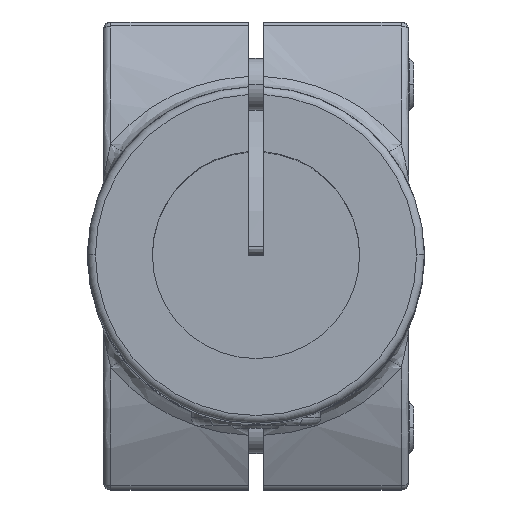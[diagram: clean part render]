
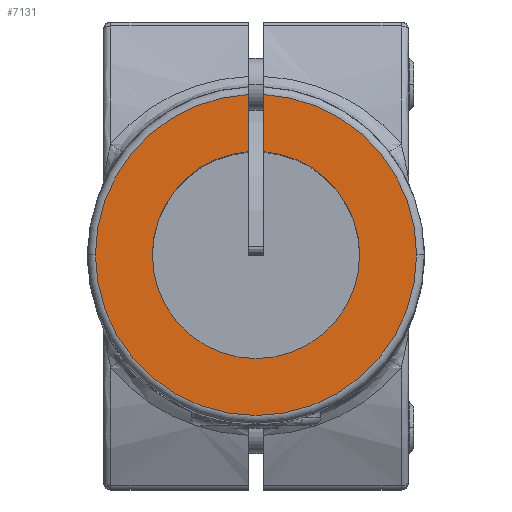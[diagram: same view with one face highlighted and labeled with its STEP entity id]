
A CAD part, top view. The second image highlights one B-rep face of the part: STEP entity #7131.
In plain terms, the highlighted planar face has unit normal (0, 0, 1) as drawn and (0, 0, -1) by its records, which use the part's own axes.
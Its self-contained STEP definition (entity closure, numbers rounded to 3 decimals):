
#418 = PLANE ( 'NONE',  #14183 ) ;
#618 = CARTESIAN_POINT ( 'NONE',  ( 1.5, 0., 0. ) ) ;
#1684 = CARTESIAN_POINT ( 'NONE',  ( -1.5, 30.964, 0. ) ) ;
#2148 = CIRCLE ( 'NONE', #11619, 31. ) ;
#2187 = DIRECTION ( 'NONE',  ( -1., 0., 0. ) ) ;
#2317 = VECTOR ( 'NONE', #14341, 1000. ) ;
#2357 = EDGE_CURVE ( 'NONE', #6773, #11877, #5516, .T. ) ;
#3046 = DIRECTION ( 'NONE',  ( 0., 0., 1. ) ) ;
#3137 = DIRECTION ( 'NONE',  ( -1., 0., 0. ) ) ;
#3461 = AXIS2_PLACEMENT_3D ( 'NONE', #15326, #15243, #3934 ) ;
#3934 = DIRECTION ( 'NONE',  ( 1., 0., 0. ) ) ;
#4054 = CARTESIAN_POINT ( 'NONE',  ( 0., 0., 0. ) ) ;
#4217 = EDGE_CURVE ( 'NONE', #12601, #13725, #2148, .T. ) ;
#4677 = ORIENTED_EDGE ( 'NONE', *, *, #2357, .F. ) ;
#4773 = CARTESIAN_POINT ( 'NONE',  ( 1.5, 19.944, 0. ) ) ;
#4907 = CARTESIAN_POINT ( 'NONE',  ( 0., 0., 0. ) ) ;
#5047 = ORIENTED_EDGE ( 'NONE', *, *, #8636, .T. ) ;
#5169 = AXIS2_PLACEMENT_3D ( 'NONE', #14356, #9585, #8269 ) ;
#5211 = VERTEX_POINT ( 'NONE', #11417 ) ;
#5282 = DIRECTION ( 'NONE',  ( 0., 0., -1. ) ) ;
#5442 = CIRCLE ( 'NONE', #5169, 20. ) ;
#5471 = ORIENTED_EDGE ( 'NONE', *, *, #14262, .T. ) ;
#5516 = LINE ( 'NONE', #15584, #2317 ) ;
#5541 = CARTESIAN_POINT ( 'NONE',  ( 0., 0., 0. ) ) ;
#5717 = EDGE_CURVE ( 'NONE', #8235, #12601, #6470, .T. ) ;
#5885 = AXIS2_PLACEMENT_3D ( 'NONE', #4907, #11105, #2187 ) ;
#6374 = EDGE_LOOP ( 'NONE', ( #6859, #16315, #6919, #11097, #4677, #5471, #14055, #5047 ) ) ;
#6470 = CIRCLE ( 'NONE', #8089, 31. ) ;
#6773 = VERTEX_POINT ( 'NONE', #10998 ) ;
#6859 = ORIENTED_EDGE ( 'NONE', *, *, #15130, .F. ) ;
#6919 = ORIENTED_EDGE ( 'NONE', *, *, #4217, .T. ) ;
#7131 = ADVANCED_FACE ( 'NONE', ( #11703 ), #418, .F. ) ;
#7231 = CIRCLE ( 'NONE', #5885, 20. ) ;
#7311 = VERTEX_POINT ( 'NONE', #11127 ) ;
#8089 = AXIS2_PLACEMENT_3D ( 'NONE', #10409, #5282, #14123 ) ;
#8109 = DIRECTION ( 'NONE',  ( 1., 0., 0. ) ) ;
#8235 = VERTEX_POINT ( 'NONE', #12942 ) ;
#8269 = DIRECTION ( 'NONE',  ( -1., 0., 0. ) ) ;
#8636 = EDGE_CURVE ( 'NONE', #5211, #13418, #7231, .T. ) ;
#9358 = DIRECTION ( 'NONE',  ( 0., -1., 0. ) ) ;
#9585 = DIRECTION ( 'NONE',  ( 0., 0., 1. ) ) ;
#9958 = CARTESIAN_POINT ( 'NONE',  ( -31., 0., 0. ) ) ;
#9970 = VECTOR ( 'NONE', #9358, 1000. ) ;
#10409 = CARTESIAN_POINT ( 'NONE',  ( 0., 0., 0. ) ) ;
#10998 = CARTESIAN_POINT ( 'NONE',  ( -1.5, 19.944, 0. ) ) ;
#11097 = ORIENTED_EDGE ( 'NONE', *, *, #16152, .T. ) ;
#11105 = DIRECTION ( 'NONE',  ( 0., 0., 1. ) ) ;
#11127 = CARTESIAN_POINT ( 'NONE',  ( -20., 0., 0. ) ) ;
#11417 = CARTESIAN_POINT ( 'NONE',  ( 20., 0., 0. ) ) ;
#11576 = DIRECTION ( 'NONE',  ( 0., 0., -1. ) ) ;
#11619 = AXIS2_PLACEMENT_3D ( 'NONE', #4054, #11576, #14391 ) ;
#11703 = FACE_OUTER_BOUND ( 'NONE', #6374, .T. ) ;
#11877 = VERTEX_POINT ( 'NONE', #1684 ) ;
#11903 = LINE ( 'NONE', #618, #9970 ) ;
#12042 = DIRECTION ( 'NONE',  ( 0., 0., 1. ) ) ;
#12601 = VERTEX_POINT ( 'NONE', #14299 ) ;
#12942 = CARTESIAN_POINT ( 'NONE',  ( 1.5, 30.964, 0. ) ) ;
#13418 = VERTEX_POINT ( 'NONE', #4773 ) ;
#13561 = AXIS2_PLACEMENT_3D ( 'NONE', #5541, #12042, #3137 ) ;
#13725 = VERTEX_POINT ( 'NONE', #9958 ) ;
#14055 = ORIENTED_EDGE ( 'NONE', *, *, #16040, .T. ) ;
#14123 = DIRECTION ( 'NONE',  ( 1., 0., 0. ) ) ;
#14183 = AXIS2_PLACEMENT_3D ( 'NONE', #14352, #3046, #8109 ) ;
#14262 = EDGE_CURVE ( 'NONE', #6773, #7311, #5442, .T. ) ;
#14299 = CARTESIAN_POINT ( 'NONE',  ( 31., 0., 0. ) ) ;
#14341 = DIRECTION ( 'NONE',  ( 0., 1., 0. ) ) ;
#14352 = CARTESIAN_POINT ( 'NONE',  ( 0., 0., 0. ) ) ;
#14356 = CARTESIAN_POINT ( 'NONE',  ( 0., 0., 0. ) ) ;
#14391 = DIRECTION ( 'NONE',  ( 1., 0., 0. ) ) ;
#15130 = EDGE_CURVE ( 'NONE', #8235, #13418, #11903, .T. ) ;
#15243 = DIRECTION ( 'NONE',  ( 0., 0., -1. ) ) ;
#15326 = CARTESIAN_POINT ( 'NONE',  ( 0., 0., 0. ) ) ;
#15584 = CARTESIAN_POINT ( 'NONE',  ( -1.5, 0., 0. ) ) ;
#15884 = CIRCLE ( 'NONE', #3461, 31. ) ;
#15963 = CIRCLE ( 'NONE', #13561, 20. ) ;
#16040 = EDGE_CURVE ( 'NONE', #7311, #5211, #15963, .T. ) ;
#16152 = EDGE_CURVE ( 'NONE', #13725, #11877, #15884, .T. ) ;
#16315 = ORIENTED_EDGE ( 'NONE', *, *, #5717, .T. ) ;
